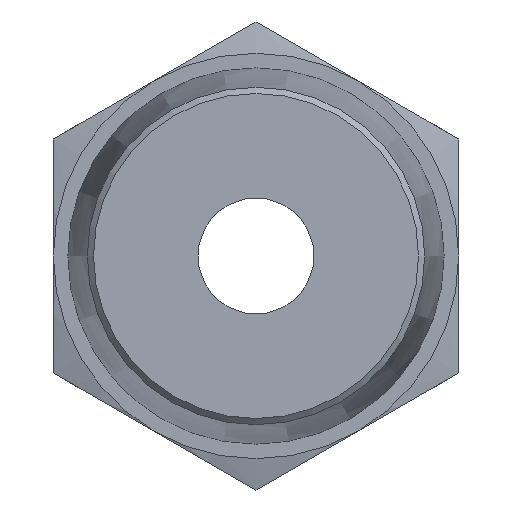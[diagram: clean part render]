
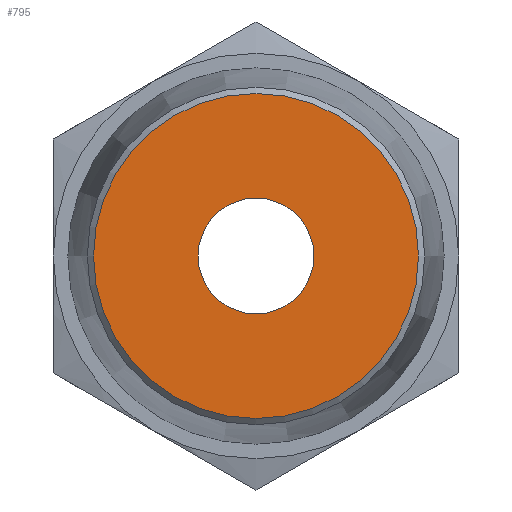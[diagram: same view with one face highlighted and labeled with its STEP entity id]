
A CAD part, front view. The second image highlights one B-rep face of the part: STEP entity #795.
In plain terms, the highlighted planar face has unit normal (0, -1, 0).
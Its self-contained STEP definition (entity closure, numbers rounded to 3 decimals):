
#15=FACE_BOUND('',#144,.T.);
#94=FACE_OUTER_BOUND('',#143,.T.);
#143=EDGE_LOOP('',(#639));
#144=EDGE_LOOP('',(#640));
#188=CIRCLE('',#880,5.613);
#190=CIRCLE('',#884,2.);
#378=VERTEX_POINT('',#1349);
#380=VERTEX_POINT('',#1357);
#473=EDGE_CURVE('',#378,#378,#188,.T.);
#476=EDGE_CURVE('',#380,#380,#190,.T.);
#639=ORIENTED_EDGE('',*,*,#473,.F.);
#640=ORIENTED_EDGE('',*,*,#476,.T.);
#763=PLANE('',#883);
#795=ADVANCED_FACE('',(#94,#15),#763,.T.);
#880=AXIS2_PLACEMENT_3D('',#1351,#1053,#1054);
#883=AXIS2_PLACEMENT_3D('',#1356,#1060,#1061);
#884=AXIS2_PLACEMENT_3D('',#1358,#1062,#1063);
#1053=DIRECTION('center_axis',(0.,1.,0.));
#1054=DIRECTION('ref_axis',(-1.,0.,0.));
#1060=DIRECTION('center_axis',(0.,-1.,0.));
#1061=DIRECTION('ref_axis',(0.,0.,-1.));
#1062=DIRECTION('center_axis',(0.,1.,0.));
#1063=DIRECTION('ref_axis',(1.,0.,0.));
#1349=CARTESIAN_POINT('',(5.613,-9.5,0.));
#1351=CARTESIAN_POINT('Origin',(0.,-9.5,0.));
#1356=CARTESIAN_POINT('Origin',(5.813,-9.5,0.));
#1357=CARTESIAN_POINT('',(-2.,-9.5,0.));
#1358=CARTESIAN_POINT('Origin',(0.,-9.5,0.));
